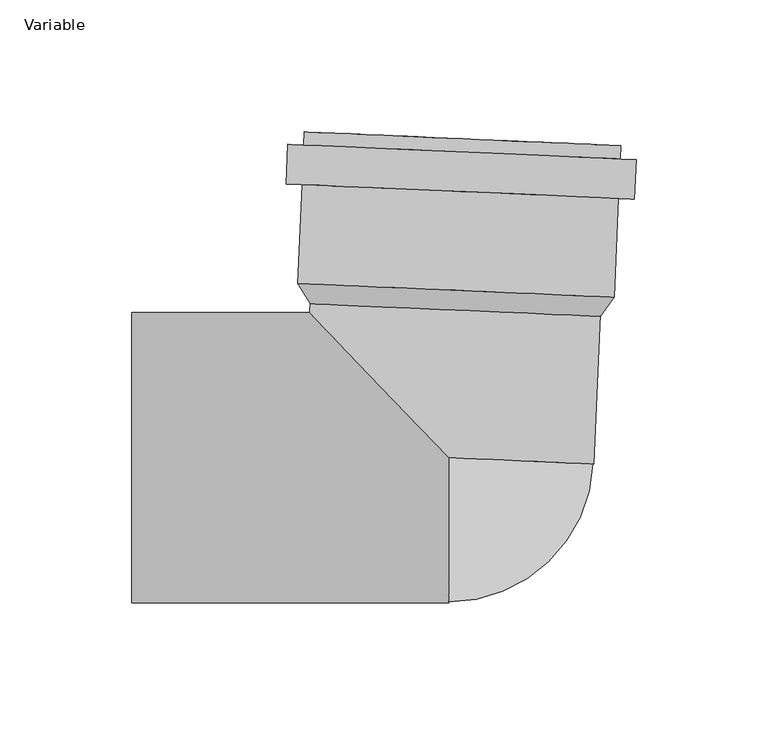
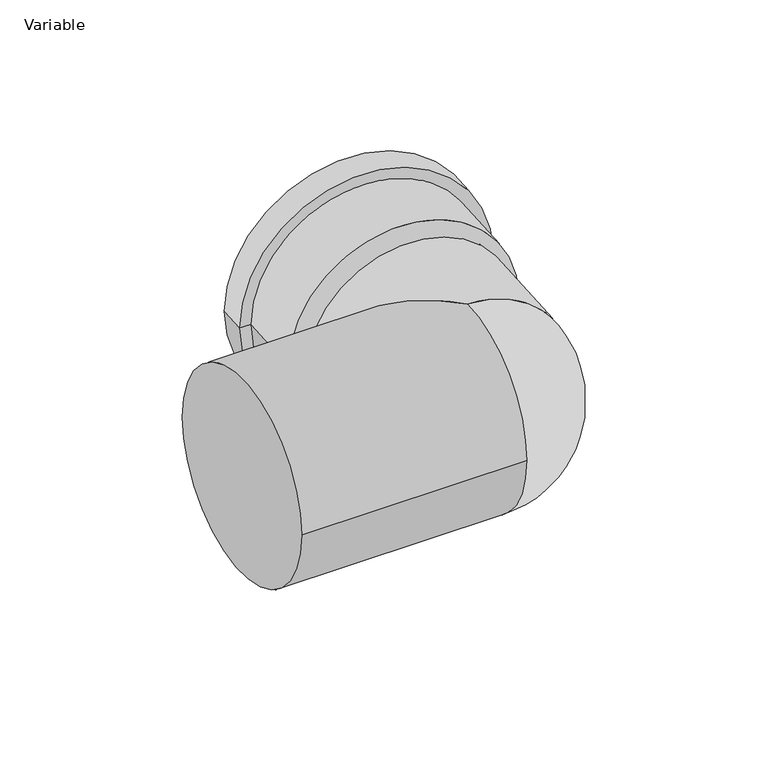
"""IFC4 building model written with IfcOpenShell, lengths in millimetres: pipe fitting geometry, AliaxisFR_Friaphon_ElbowMF_FR : Variable."""

from ifc_helpers import new_model, si_unit, point, frame, origin, place, context, project, spatial, polyline, circle_curve, ellipse_curve, trimmed, source, transform, mapped, element, save
from ifc_brep_helpers import plane_surface, cylinder_surface, revolved_surface, advanced_brep


def variable_b80f720b(model_context):
    return source(origin(), model_context, "Body", "AdvancedBrep", [
        advanced_brep(
        [(65.2208392, 118.2676716, 0.0), (-54.6649474, 123.5019981, 0.0), (-49.6697063, 123.2839011, 0.0), (60.2255981, 118.4857685, 0.0), (70.3427407, 98.0249908, 0.0), (-61.5316245, 103.7827499, 0.0), (-60.8773337, 118.7684733, 0.0), (70.9970316, 113.0107141, 0.0), (64.3484514, 98.2867071, 0.0), (-55.5373352, 103.5210336, 0.0), (62.7127244, 60.8223988, 0.0), (-57.1730622, 66.0567253, 0.0), (-52.5049665, 58.3457667, 0.0), (57.3903379, 53.5476341, 0.0), (65.0027422, 113.2724305, 0.0), (-54.8830444, 118.5067569, 0.0)],
        [
            (0, 1, circle_curve(frame((5.2779459, 120.8848348, 0.0), z_axis=(0.0436193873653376, 0.9990482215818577, 0.0), x_axis=(-0.9990482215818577, 0.0436193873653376, 0.0)), 60.0)),
            (1, 2),
            (2, 3, circle_curve(frame((5.2779459, 120.8848348, 0.0), z_axis=(-0.0436193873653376, -0.9990482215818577, 0.0), x_axis=(-0.9990482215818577, 0.0436193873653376, 0.0)), 55.0)),
            (3, 0),
            (1, 0, circle_curve(frame((5.2779459, 120.8848348, 0.0), z_axis=(0.0436193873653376, 0.9990482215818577, 0.0), x_axis=(-0.9990482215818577, 0.0436193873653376, 0.0)), 60.0)),
            (3, 2, circle_curve(frame((5.2779459, 120.8848348, 0.0), z_axis=(-0.0436193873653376, -0.9990482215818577, 0.0), x_axis=(-0.9990482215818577, 0.0436193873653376, 0.0)), 55.0)),
            (4, 5, circle_curve(frame((4.4055581, 100.9038704, 0.0), z_axis=(0.0436193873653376, 0.9990482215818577, 0.0), x_axis=(-0.9990482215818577, 0.0436193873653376, 0.0)), 66.0)),
            (5, 6),
            (6, 7, circle_curve(frame((5.0598489, 115.8895937, 0.0), z_axis=(-0.0436193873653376, -0.9990482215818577, 0.0), x_axis=(-0.9990482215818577, 0.0436193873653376, 0.0)), 66.0)),
            (7, 4),
            (5, 4, circle_curve(frame((4.4055581, 100.9038704, 0.0), z_axis=(0.0436193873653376, 0.9990482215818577, 0.0), x_axis=(-0.9990482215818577, 0.0436193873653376, 0.0)), 66.0)),
            (7, 6, circle_curve(frame((5.0598489, 115.8895937, 0.0), z_axis=(-0.0436193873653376, -0.9990482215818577, 0.0), x_axis=(-0.9990482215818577, 0.0436193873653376, 0.0)), 66.0)),
            (8, 9, circle_curve(frame((4.4055581, 100.9038704, 0.0), z_axis=(0.0436193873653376, 0.9990482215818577, 0.0), x_axis=(-0.9990482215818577, 0.0436193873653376, 0.0)), 60.0)),
            (9, 5),
            (4, 8),
            (9, 8, circle_curve(frame((4.4055581, 100.9038704, 0.0), z_axis=(0.0436193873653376, 0.9990482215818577, 0.0), x_axis=(-0.9990482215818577, 0.0436193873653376, 0.0)), 60.0)),
            (10, 11, circle_curve(frame((2.7698311, 63.4395621, 0.0), z_axis=(0.0436193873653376, 0.9990482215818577, 0.0), x_axis=(-0.9990482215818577, 0.0436193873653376, 0.0)), 60.0)),
            (11, 9),
            (8, 10),
            (11, 10, circle_curve(frame((2.7698311, 63.4395621, 0.0), z_axis=(0.0436193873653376, 0.9990482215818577, 0.0), x_axis=(-0.9990482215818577, 0.0436193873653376, 0.0)), 60.0)),
            (2, 12),
            (12, 13, circle_curve(frame((2.4426857, 55.9467004, 0.0), z_axis=(-0.0436193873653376, -0.9990482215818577, 0.0), x_axis=(-0.9990482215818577, 0.0436193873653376, 0.0)), 55.0)),
            (13, 3),
            (13, 12, circle_curve(frame((2.4426857, 55.9467004, 0.0), z_axis=(-0.0436193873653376, -0.9990482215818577, 0.0), x_axis=(-0.9990482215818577, 0.0436193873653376, 0.0)), 55.0)),
            (12, 11),
            (10, 13),
            (14, 15, circle_curve(frame((5.0598489, 115.8895937, 0.0), z_axis=(0.0436193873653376, 0.9990482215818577, 0.0), x_axis=(-0.9990482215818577, 0.0436193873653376, 0.0)), 60.0)),
            (15, 1),
            (0, 14),
            (15, 14, circle_curve(frame((5.0598489, 115.8895937, 0.0), z_axis=(0.0436193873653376, 0.9990482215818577, 0.0), x_axis=(-0.9990482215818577, 0.0436193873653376, 0.0)), 60.0)),
            (6, 15),
            (14, 7),
        ],
        [
            plane_surface(frame((5.2779459, 120.8848348, 0.0), z_axis=(0.0436193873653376, 0.9990482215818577, 0.0), x_axis=(-0.9990482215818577, 0.0436193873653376, 0.0))),
            cylinder_surface(frame((2.4426857, 55.9467004, 0.0), z_axis=(-0.0436193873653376, -0.9990482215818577, 0.0), x_axis=(-0.9990482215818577, 0.0436193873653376, 0.0)), 66.0),
            plane_surface(frame((4.4055581, 100.9038704, 0.0), z_axis=(-0.0436193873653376, -0.9990482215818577, 0.0), x_axis=(-0.9990482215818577, 0.0436193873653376, 0.0))),
            cylinder_surface(frame((2.4426857, 55.9467004, 0.0), z_axis=(-0.0436193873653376, -0.9990482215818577, 0.0), x_axis=(-0.9990482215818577, 0.0436193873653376, 0.0)), 60.0),
            revolved_surface(polyline([(-52.50496648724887, 58.345766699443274, 0.0), (-49.669706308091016, 123.2839011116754, 0.0)]), (2.4426857, 55.9467004, 0.0), (-0.0436193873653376, -0.9990482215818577, 0.0)),
            revolved_surface(polyline([(-57.1730622, 66.0567253, 0.0), (-52.5049665, 58.3457667, 0.0)]), (2.4426857, 55.9467004, 0.0), (-0.0436193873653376, -0.9990482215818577, 0.0)),
            plane_surface(frame((5.0598489, 115.8895937, 0.0), z_axis=(0.0436193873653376, 0.9990482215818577, 0.0), x_axis=(-0.9990482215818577, 0.0436193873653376, 0.0))),
        ],
        [
            (0, [[1, 2, 3, 4]]),
            (0, [[5, -4, 6, -2]]),
            (1, [[7, 8, 9, 10]]),
            (1, [[11, -10, 12, -8]]),
            (2, [[13, 14, -7, 15]]),
            (2, [[16, -15, -11, -14]]),
            (3, [[17, 18, -13, 19]]),
            (3, [[20, -19, -16, -18]]),
            (4, [[-3, 21, 22, 23]]),
            (4, [[-6, -23, 24, -21]]),
            (5, [[-22, 25, -17, 26]]),
            (5, [[-24, -26, -20, -25]]),
            (3, [[27, 28, -1, 29]]),
            (3, [[30, -29, -5, -28]]),
            (6, [[-9, 31, -27, 32]]),
            (6, [[-12, -32, -30, -31]]),
        ],
    ),
        advanced_brep(
        [(-52.2868696, 63.3410078, 0.0), (2.6607826, 60.9419415, 55.0), (57.6084348, 58.5428752, 0.0), (2.6607826, 60.9419415, -55.0), (54.9476522, -2.3990663, 0.0), (-52.6510458, 55.0, 0.0), (0.0, 0.0, 55.0), (0.0, 0.0, -55.0), (-120.0, -55.0, 0.0), (-120.0, 55.0, 0.0), (0.0, -55.0, 0.0)],
        [
            (0, 1, circle_curve(frame((2.6607826, 60.9419415, 0.0), z_axis=(0.04361938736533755, 0.9990482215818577, 0.0), x_axis=(-0.9990482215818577, 0.04361938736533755, 0.0)), 55.0)),
            (1, 2, circle_curve(frame((2.6607826, 60.9419415, 0.0), z_axis=(0.04361938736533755, 0.9990482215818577, 0.0), x_axis=(-0.9990482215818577, 0.04361938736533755, 0.0)), 55.0)),
            (2, 3, circle_curve(frame((2.6607826, 60.9419415, 0.0), z_axis=(0.04361938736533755, 0.9990482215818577, 0.0), x_axis=(-0.9990482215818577, 0.04361938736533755, 0.0)), 55.0)),
            (3, 0, circle_curve(frame((2.6607826, 60.9419415, 0.0), z_axis=(0.04361938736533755, 0.9990482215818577, 0.0), x_axis=(-0.9990482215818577, 0.04361938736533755, 0.0)), 55.0)),
            (4, 2),
            (0, 5),
            (5, 6, ellipse_curve(frame((0.0, 0.0, 0.0), z_axis=(0.7223639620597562, 0.6915130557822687, 0.0), x_axis=(0.6915130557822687, -0.7223639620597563, 0.0)), 76.1389035, 55.0)),
            (6, 4, circle_curve(frame((0.0, 0.0, 0.0), z_axis=(0.04361938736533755, 0.9990482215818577, 0.0), x_axis=(-0.9990482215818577, 0.04361938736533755, 0.0)), 55.0)),
            (4, 7, circle_curve(frame((0.0, 0.0, 0.0), z_axis=(0.04361938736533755, 0.9990482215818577, 0.0), x_axis=(-0.9990482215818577, 0.04361938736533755, 0.0)), 55.0)),
            (7, 5, ellipse_curve(frame((0.0, 0.0, 0.0), z_axis=(0.7223639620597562, 0.6915130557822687, 0.0), x_axis=(0.6915130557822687, -0.7223639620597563, 0.0)), 76.1389035, 55.0)),
            (8, 9, circle_curve(frame((-120.0, 0.0, 0.0), z_axis=(-1.0, 0.0, 0.0), x_axis=(0.0, 1.0, 0.0)), 55.0)),
            (9, 8, circle_curve(frame((-120.0, 0.0, 0.0), z_axis=(-1.0, 0.0, 0.0), x_axis=(0.0, 1.0, 0.0)), 55.0)),
            (8, 10),
            (10, 6, circle_curve(frame((0.0, 0.0, 0.0), z_axis=(-1.0, 0.0, 0.0), x_axis=(0.0, 1.0, 0.0)), 55.0)),
            (5, 9),
            (7, 10, circle_curve(frame((0.0, 0.0, 0.0), z_axis=(-1.0, 0.0, 0.0), x_axis=(0.0, 1.0, 0.0)), 55.0)),
        ],
        [
            plane_surface(frame((2.6607826, 60.9419415, 0.0), z_axis=(0.043619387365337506, 0.9990482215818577, 0.0), x_axis=(0.0, 0.0, 1.0))),
            cylinder_surface(frame((0.0, 0.0, 0.0), z_axis=(-0.04361938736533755, -0.9990482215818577, 0.0), x_axis=(-0.9990482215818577, 0.04361938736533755, 0.0)), 55.0),
            plane_surface(frame((-120.0, 0.0, 0.0), z_axis=(-1.0, 0.0, 0.0), x_axis=(0.0, 0.0, 1.0))),
            cylinder_surface(frame((-120.0, 0.0, 0.0), z_axis=(-1.0, 0.0, 0.0), x_axis=(0.0, 1.0, 0.0)), 55.0),
            revolved_surface(trimmed(ellipse_curve(frame((0.0, 0.0, 0.0), z_axis=(0.0436193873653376, 0.9990482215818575, 0.0), x_axis=(-0.9990482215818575, 0.0436193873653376, 0.0)), 55.0, 55.0), [point((0.0, 0.0, 55.0))], [point((0.0, 0.0, -55.0))], True, "CARTESIAN"), (0.0, 0.0, 55.0), (0.0, 0.0, -1.0)),
        ],
        [
            (0, [[1, 2, 3, 4]]),
            (1, [[5, -2, -1, 6, 7, 8]]),
            (1, [[-5, 9, 10, -6, -4, -3]]),
            (2, [[11, 12]]),
            (3, [[-11, 13, 14, -7, 15]]),
            (3, [[-12, -15, -10, 16, -13]]),
            (4, [[-14, -16, -9, -8]]),
        ],
    ),
    ])


if __name__ == "__main__":
    model = new_model("IFC4")
    model_context = context("Model", 3, world=origin())
    ifc_project = project(units=[si_unit("LENGTHUNIT", "METRE", prefix="MILLI")], contexts=[model_context])
    site = spatial("IfcSite", under=ifc_project)
    building = spatial("IfcBuilding", under=site)
    placement = place(None, origin())
    variable_shape = variable_b80f720b(model_context)
    element("IfcPipeFitting", 1, ObjectType="AliaxisFR_Friaphon_ElbowMF_FR : Variable", at=placement, inside=building, context=model_context, shape_type="MappedRepresentation", body=[
        mapped(variable_shape, transform((0.0, 0.0, 0.0), x_axis=(1.0, 0.0, 0.0), y_axis=(0.0, 1.0, 0.0), z_axis=(0.0, 0.0, 1.0))),
    ])
    save(model, "model.ifc")
